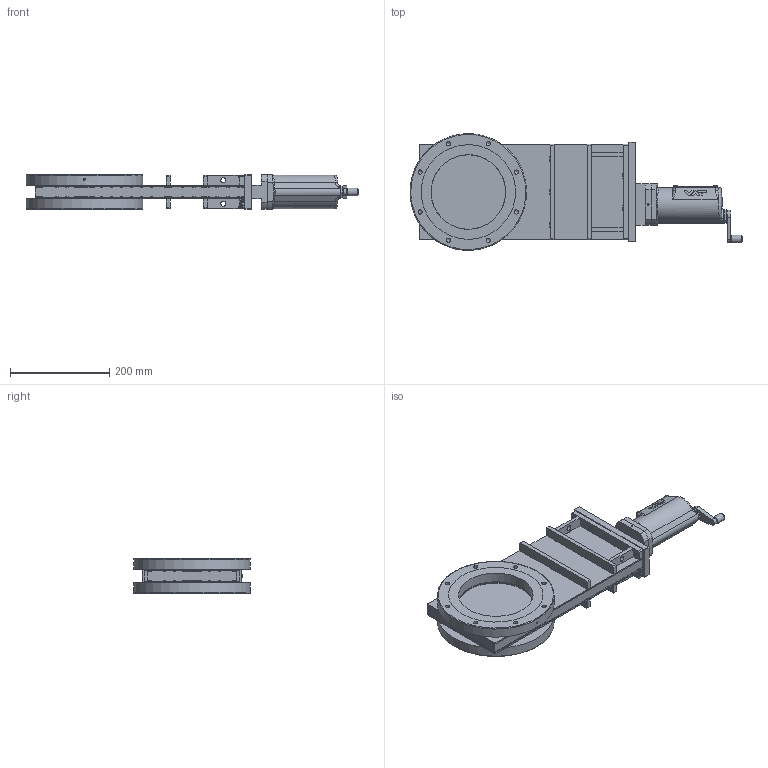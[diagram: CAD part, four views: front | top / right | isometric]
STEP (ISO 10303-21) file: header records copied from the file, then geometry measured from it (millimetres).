
FILE_DESCRIPTION(/* description */ (''),/* implementation_level */ '2;1');
FILE_NAME(/* name */ '1030939525_203.stp',/* time_stamp */ '2020-04-01T14:52:03+02:00',/* author */ (''),/* organization */ (''),/* preprocessor_version */ 'ST-DEVELOPER v16.7',/* originating_system */ 'SIEMENS PLM Software NX 1899',/* authorisation */ '');
FILE_SCHEMA (('AP203_CONFIGURATION_CONTROLLED_3D_DESIGN_OF_MECHANICAL_PARTS_AND_ASSEMBLIES_MIM_LF { 1 0 10303 403 2 1 2}'));
Length unit declared in the file: millimetre
Products named in the file (33): 804857_29382ID; 804844_29381ID; 804858_29362ID; 804853_29380ID; 804858_29379ID; 804853_29374ID; 804845_29372ID; 804858_29363ID; 804857_29369ID; 804845_29371ID; 804850_29385ID; 804857_29376ID; 804858_29375ID; 804857_29383ID; 804844_29378ID; n-6099-492.1; 230580.1_29366ID; 230580.1; 82480-R1_1.2; 78964-01_01.1; 79149-01.1; 79148-01.1; 69129.1; 72872-01.1_29389ID; n-6024-538.1; 395868; n-6005-814.1; 93160-01.1; 804898; 230584.1; 82482-r1.2; 82469-r1.1; 1034111
Assembly tree (46 placements, depth 4):
  1034111
    82469-r1.1
      72872-01.1_29389ID
      69129.1
    93160-01.1
    n-6005-814.1  x11
    82482-r1.2
      79148-01.1
      79149-01.1
      78964-01_01.1
      82480-R1_1.2
    395868
    n-6024-538.1  x4
    230584.1
      804898
        804844_29378ID
        804857_29383ID
        804858_29375ID
        804857_29376ID
        804850_29385ID
        804845_29371ID
        804857_29369ID
        804858_29363ID
        804845_29372ID
        804853_29374ID
        804858_29379ID
        804853_29380ID
        804858_29362ID
        804844_29381ID
        804857_29382ID
      230580.1
      230580.1_29366ID
      n-6099-492.1  x2
Bounding box: 668.26 x 235 x 70 mm (x, y, z)
Volume: 2707855.2 mm3; surface area: 802868.1 mm2
Topology: 214 solids, 214 shells, 1612 faces, 3510 edges, 2378 vertices
Faces by surface type: plane 1248, cylinder 242, cone 91, bspline 22, torus 5, sphere 4
Full cylindrical faces by diameter (mm): 3 x1, 3.8 x2, 4 x8, 4.3 x4, 4.625 x2, 6 x2, 6.35 x2, 6.625 x2, 6.66 x11, 6.7 x11, 6.8 x15, 7 x1, 8 x26, 8.5 x16, 9 x10, 10 x4, 13 x11, 14.1 x10, 15 x1, 20 x1, 28 x1, 59.975 x1, 60 x1, 150.1 x5, 167.25 x2, 235 x2
Entity records: 49509 total; most frequent: CARTESIAN_POINT 8258, DIRECTION 5785, ORIENTED_EDGE 5530, EDGE_CURVE 2765, LINE 2143, VECTOR 2143, VERTEX_POINT 2008, AXIS2_PLACEMENT_3D 1821
